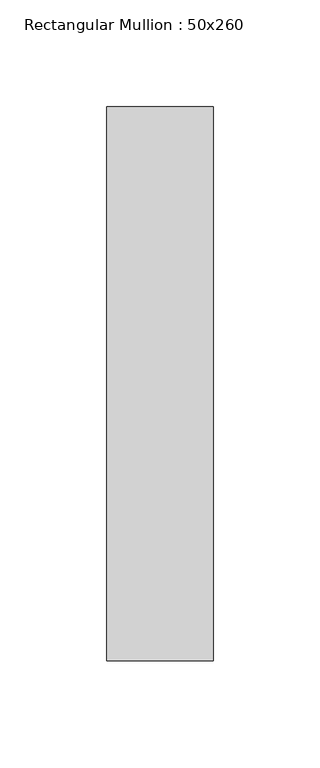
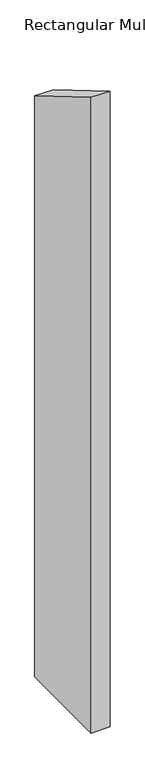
"""IFC4 building model written with IfcOpenShell, lengths in millimetres: member geometry, Rectangular Mullion : 50x260."""

from ifc_helpers import new_model, si_unit, frame, origin, place, context, project, spatial, polyline, outline, extrude, source, transform, mapped, element, save


def rectangular_mullion_50x260_a023bcf6(model_context):
    return source(origin(), model_context, "Body", "SweptSolid", [
        extrude(outline(polyline([(-130.0, 76.7112761), (130.0, -76.7112761), (130.0, -1708.9563907), (-130.0, -1708.9563907), (-130.0, 76.7112761)])), frame((-50.0, 0.0, 0.0), z_axis=(1.0, 0.0, 0.0), x_axis=(0.0, 1.0, 0.0)), (0.0, 0.0, 1.0), 50.0),
    ])


if __name__ == "__main__":
    model = new_model("IFC4")
    model_context = context("Model", 3, world=origin())
    ifc_project = project(units=[si_unit("LENGTHUNIT", "METRE", prefix="MILLI")], contexts=[model_context])
    site = spatial("IfcSite", under=ifc_project)
    building = spatial("IfcBuilding", under=site)
    placement = place(None, origin())
    rectangular_mullion_50x260_shape = rectangular_mullion_50x260_a023bcf6(model_context)
    element("IfcMember", 1, ObjectType="Rectangular Mullion : 50x260", at=placement, inside=building, context=model_context, shape_type="MappedRepresentation", body=[
        mapped(rectangular_mullion_50x260_shape, transform((0.0, 0.0, 0.0), x_axis=(1.0, 0.0, 0.0), y_axis=(0.0, 1.0, 0.0), z_axis=(0.0, 0.0, 1.0))),
    ])
    save(model, "model.ifc")
